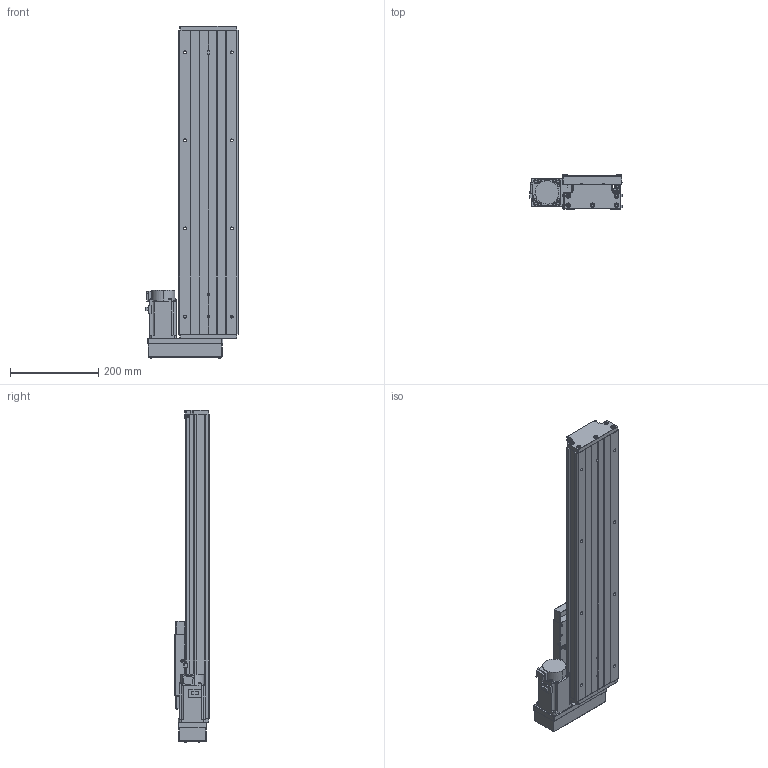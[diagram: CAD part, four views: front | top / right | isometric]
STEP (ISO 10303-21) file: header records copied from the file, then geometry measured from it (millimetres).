
FILE_DESCRIPTION (( 'STEP AP203' ), '1' );
FILE_NAME ('GTH14-450-BL-M40-C4.step', '2023-06-30T08:39:55', ( '微软用户' ), ( '微软中国' ), 'SwSTEP 2.0', 'SolidWorks 2020', '' );
FILE_SCHEMA (( 'CONFIG_CONTROL_DESIGN' ));
Length unit declared in the file: millimetre
Products named in the file (19): GTH14-015-2_CTHA86-015-2; GTH14-005; GBT77-2000 M3×3; GTH14-033; GB1155-6X6; GTH14-031; GTH14-450-BL-M40-C4; GBT70.1 M5℅16; GBT 70.2-M3¡Á5_M3¡Á6; CTHA60-017; す晦芛蹟隊 M3℅5; GTH14-001_450; EE_SX911P_R; HG-KN43J-S100; GTH14-002_GTH14-002; CTHA60-016; GBT 70.2-M4¡Á35_M4¡Á35; GTH14-004; GBT 70.1-M3℅5
Assembly tree (58 placements, depth 2):
  GTH14-450-BL-M40-C4
    GTH14-001_450
    GTH14-002_GTH14-002
    GTH14-004
    GTH14-005
    GB1155-6X6  x2
    GBT70.1 M5℅16  x10
    CTHA60-017  x3
    EE_SX911P_R  x3
    CTHA60-016  x2
    GBT 70.1-M3℅5  x6
    GBT77-2000 M3×3  x6
    GTH14-031
    GBT 70.2-M3¡Á5_M3¡Á6  x8
    す晦芛蹟隊 M3℅5  x6
    HG-KN43J-S100
    GBT 70.2-M4¡Á35_M4¡Á35  x4
    GTH14-015-2_CTHA86-015-2
    GTH14-033
Bounding box: 209.3 x 78 x 754.2 mm (x, y, z)
Volume: 4326541.8 mm3; surface area: 758062.6 mm2
Topology: 61 solids, 61 shells, 2443 faces, 5809 edges, 3578 vertices
Faces by surface type: plane 1305, cylinder 648, cone 314, torus 124, sphere 32, bspline 20
Entity records: 43850 total; most frequent: CARTESIAN_POINT 9807, DIRECTION 6429, ORIENTED_EDGE 6308, EDGE_CURVE 3154, AXIS2_PLACEMENT_3D 2192, LINE 2045, VECTOR 2045, VERTEX_POINT 1996
